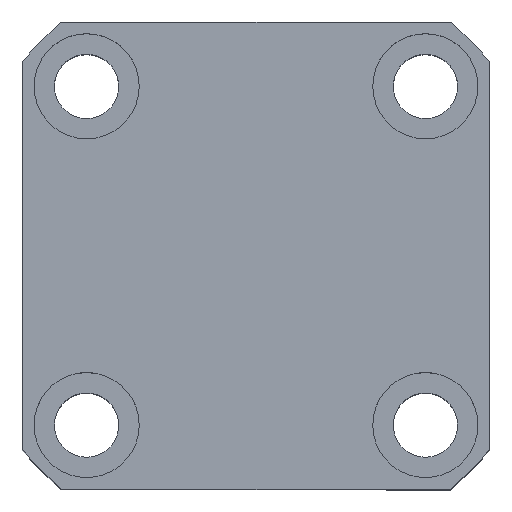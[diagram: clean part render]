
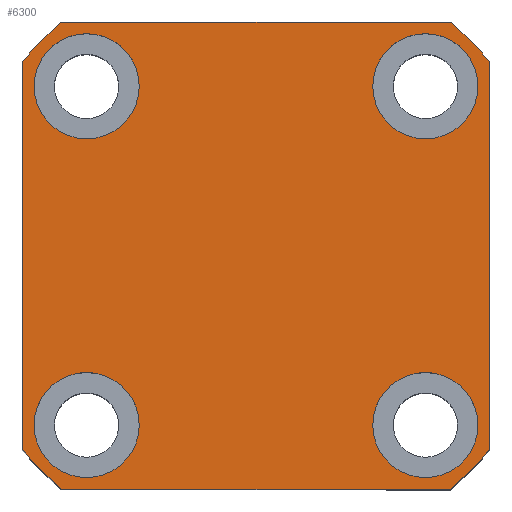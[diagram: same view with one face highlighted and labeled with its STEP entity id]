
A CAD part, top view. The second image highlights one B-rep face of the part: STEP entity #6300.
In plain terms, the highlighted planar face has unit normal (0, 0, 1).
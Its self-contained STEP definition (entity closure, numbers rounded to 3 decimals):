
#130 = DIRECTION ( 'NONE',  ( 0., 0., 1. ) ) ;
#161 = DIRECTION ( 'NONE',  ( 0., 0., 1. ) ) ;
#259 = EDGE_CURVE ( 'NONE', #1165, #12457, #1256, .T. ) ;
#450 = CARTESIAN_POINT ( 'NONE',  ( -29., 29., 35. ) ) ;
#658 = EDGE_CURVE ( 'NONE', #4995, #10958, #4526, .T. ) ;
#784 = DIRECTION ( 'NONE',  ( 0., 0., 1. ) ) ;
#818 = VERTEX_POINT ( 'NONE', #5042 ) ;
#852 = CARTESIAN_POINT ( 'NONE',  ( 20., -29., 35. ) ) ;
#881 = VERTEX_POINT ( 'NONE', #8987 ) ;
#947 = FACE_BOUND ( 'NONE', #13126, .T. ) ;
#1165 = VERTEX_POINT ( 'NONE', #15350 ) ;
#1256 = CIRCLE ( 'NONE', #9097, 9. ) ;
#1278 = CARTESIAN_POINT ( 'NONE',  ( -29., 29., 35. ) ) ;
#1317 = ORIENTED_EDGE ( 'NONE', *, *, #12348, .T. ) ;
#1320 = DIRECTION ( 'NONE',  ( 1., 0., 0. ) ) ;
#1344 = AXIS2_PLACEMENT_3D ( 'NONE', #450, #15970, #17250 ) ;
#1391 = CARTESIAN_POINT ( 'NONE',  ( 0., 0., 35. ) ) ;
#1738 = VERTEX_POINT ( 'NONE', #3813 ) ;
#1836 = AXIS2_PLACEMENT_3D ( 'NONE', #8450, #5613, #12746 ) ;
#2123 = ORIENTED_EDGE ( 'NONE', *, *, #17520, .T. ) ;
#2200 = CARTESIAN_POINT ( 'NONE',  ( 0., 0., 35. ) ) ;
#2237 = EDGE_CURVE ( 'NONE', #2808, #1738, #15576, .T. ) ;
#2399 = CARTESIAN_POINT ( 'NONE',  ( 20., 29., 35. ) ) ;
#2808 = VERTEX_POINT ( 'NONE', #7864 ) ;
#3118 = CIRCLE ( 'NONE', #1344, 9. ) ;
#3644 = DIRECTION ( 'NONE',  ( 1., 0., 0. ) ) ;
#3813 = CARTESIAN_POINT ( 'NONE',  ( -33.226, 40., 35. ) ) ;
#4058 = AXIS2_PLACEMENT_3D ( 'NONE', #13295, #14696, #14800 ) ;
#4105 = CARTESIAN_POINT ( 'NONE',  ( -40., 33.226, 35. ) ) ;
#4173 = EDGE_CURVE ( 'NONE', #13411, #13247, #18042, .T. ) ;
#4271 = ORIENTED_EDGE ( 'NONE', *, *, #5966, .T. ) ;
#4436 = ORIENTED_EDGE ( 'NONE', *, *, #259, .F. ) ;
#4486 = CARTESIAN_POINT ( 'NONE',  ( 40., 33.226, 35. ) ) ;
#4487 = AXIS2_PLACEMENT_3D ( 'NONE', #2200, #784, #9113 ) ;
#4496 = ORIENTED_EDGE ( 'NONE', *, *, #16653, .F. ) ;
#4526 = LINE ( 'NONE', #7207, #10649 ) ;
#4617 = EDGE_CURVE ( 'NONE', #16613, #11895, #7769, .T. ) ;
#4669 = FACE_BOUND ( 'NONE', #15034, .T. ) ;
#4746 = CIRCLE ( 'NONE', #17394, 52. ) ;
#4768 = CIRCLE ( 'NONE', #7523, 9. ) ;
#4884 = VERTEX_POINT ( 'NONE', #6856 ) ;
#4955 = CARTESIAN_POINT ( 'NONE',  ( -38., 29., 35. ) ) ;
#4968 = DIRECTION ( 'NONE',  ( 0., 0., 1. ) ) ;
#4995 = VERTEX_POINT ( 'NONE', #4105 ) ;
#5042 = CARTESIAN_POINT ( 'NONE',  ( -20., 29., 35. ) ) ;
#5104 = CARTESIAN_POINT ( 'NONE',  ( 29., -29., 35. ) ) ;
#5420 = EDGE_CURVE ( 'NONE', #7869, #881, #11265, .T. ) ;
#5523 = ORIENTED_EDGE ( 'NONE', *, *, #8226, .T. ) ;
#5613 = DIRECTION ( 'NONE',  ( 0., 0., 1. ) ) ;
#5623 = CARTESIAN_POINT ( 'NONE',  ( 38., 29., 35. ) ) ;
#5776 = DIRECTION ( 'NONE',  ( 1., 0., 0. ) ) ;
#5917 = CARTESIAN_POINT ( 'NONE',  ( -33.226, 40., 35. ) ) ;
#5966 = EDGE_CURVE ( 'NONE', #1738, #4995, #10582, .T. ) ;
#6147 = CARTESIAN_POINT ( 'NONE',  ( -33.226, -40., 35. ) ) ;
#6300 = ADVANCED_FACE ( 'NONE', ( #4669, #17567, #947, #6627, #9272 ), #12112, .T. ) ;
#6451 = EDGE_CURVE ( 'NONE', #818, #11189, #17786, .T. ) ;
#6496 = DIRECTION ( 'NONE',  ( 1., 0., 0. ) ) ;
#6621 = DIRECTION ( 'NONE',  ( 0., 0., 1. ) ) ;
#6627 = FACE_BOUND ( 'NONE', #12455, .T. ) ;
#6755 = CARTESIAN_POINT ( 'NONE',  ( 0., 0., 35. ) ) ;
#6836 = VECTOR ( 'NONE', #12717, 1000. ) ;
#6856 = CARTESIAN_POINT ( 'NONE',  ( 40., 33.226, 35. ) ) ;
#7207 = CARTESIAN_POINT ( 'NONE',  ( -40., 33.226, 35. ) ) ;
#7334 = ORIENTED_EDGE ( 'NONE', *, *, #4173, .T. ) ;
#7523 = AXIS2_PLACEMENT_3D ( 'NONE', #11449, #130, #9912 ) ;
#7690 = ORIENTED_EDGE ( 'NONE', *, *, #10460, .F. ) ;
#7767 = DIRECTION ( 'NONE',  ( 0., 0., 1. ) ) ;
#7769 = CIRCLE ( 'NONE', #4058, 9. ) ;
#7822 = DIRECTION ( 'NONE',  ( 1., 0., 0. ) ) ;
#7864 = CARTESIAN_POINT ( 'NONE',  ( 33.226, 40., 35. ) ) ;
#7869 = VERTEX_POINT ( 'NONE', #15015 ) ;
#8226 = EDGE_CURVE ( 'NONE', #13247, #4884, #9459, .T. ) ;
#8340 = EDGE_CURVE ( 'NONE', #11189, #818, #3118, .T. ) ;
#8450 = CARTESIAN_POINT ( 'NONE',  ( 0., 0., 35. ) ) ;
#8479 = ORIENTED_EDGE ( 'NONE', *, *, #658, .T. ) ;
#8494 = CIRCLE ( 'NONE', #17745, 52. ) ;
#8645 = DIRECTION ( 'NONE',  ( 1., 0., 0. ) ) ;
#8920 = ORIENTED_EDGE ( 'NONE', *, *, #6451, .F. ) ;
#8968 = AXIS2_PLACEMENT_3D ( 'NONE', #1391, #161, #5776 ) ;
#8987 = CARTESIAN_POINT ( 'NONE',  ( -20., -29., 35. ) ) ;
#9097 = AXIS2_PLACEMENT_3D ( 'NONE', #15988, #4968, #10599 ) ;
#9113 = DIRECTION ( 'NONE',  ( 1., 0., 0. ) ) ;
#9272 = FACE_OUTER_BOUND ( 'NONE', #15028, .T. ) ;
#9388 = CARTESIAN_POINT ( 'NONE',  ( 0., 0., 35. ) ) ;
#9459 = LINE ( 'NONE', #4486, #6836 ) ;
#9465 = DIRECTION ( 'NONE',  ( 1., 0., 0. ) ) ;
#9890 = DIRECTION ( 'NONE',  ( -1., 0., 0. ) ) ;
#9912 = DIRECTION ( 'NONE',  ( 1., 0., 0. ) ) ;
#10420 = ORIENTED_EDGE ( 'NONE', *, *, #2237, .T. ) ;
#10434 = ORIENTED_EDGE ( 'NONE', *, *, #17684, .T. ) ;
#10460 = EDGE_CURVE ( 'NONE', #881, #7869, #17873, .T. ) ;
#10477 = ORIENTED_EDGE ( 'NONE', *, *, #4617, .F. ) ;
#10484 = EDGE_CURVE ( 'NONE', #12457, #1165, #14810, .T. ) ;
#10582 = CIRCLE ( 'NONE', #1836, 52. ) ;
#10599 = DIRECTION ( 'NONE',  ( 1., 0., 0. ) ) ;
#10649 = VECTOR ( 'NONE', #14069, 1000. ) ;
#10914 = VERTEX_POINT ( 'NONE', #6147 ) ;
#10958 = VERTEX_POINT ( 'NONE', #13192 ) ;
#11155 = ORIENTED_EDGE ( 'NONE', *, *, #10484, .F. ) ;
#11189 = VERTEX_POINT ( 'NONE', #4955 ) ;
#11265 = CIRCLE ( 'NONE', #16587, 9. ) ;
#11329 = CARTESIAN_POINT ( 'NONE',  ( -33.226, -40., 35. ) ) ;
#11449 = CARTESIAN_POINT ( 'NONE',  ( 29., 29., 35. ) ) ;
#11867 = VECTOR ( 'NONE', #9890, 1000. ) ;
#11895 = VERTEX_POINT ( 'NONE', #2399 ) ;
#11999 = AXIS2_PLACEMENT_3D ( 'NONE', #1278, #12231, #9465 ) ;
#12112 = PLANE ( 'NONE',  #4487 ) ;
#12231 = DIRECTION ( 'NONE',  ( 0., 0., 1. ) ) ;
#12348 = EDGE_CURVE ( 'NONE', #10914, #13411, #12624, .T. ) ;
#12386 = DIRECTION ( 'NONE',  ( 0., 0., 1. ) ) ;
#12455 = EDGE_LOOP ( 'NONE', ( #10477, #4496 ) ) ;
#12457 = VERTEX_POINT ( 'NONE', #852 ) ;
#12624 = LINE ( 'NONE', #11329, #17404 ) ;
#12704 = DIRECTION ( 'NONE',  ( 0., 0., 1. ) ) ;
#12717 = DIRECTION ( 'NONE',  ( 0., 1., 0. ) ) ;
#12746 = DIRECTION ( 'NONE',  ( 1., 0., 0. ) ) ;
#13126 = EDGE_LOOP ( 'NONE', ( #8920, #13534 ) ) ;
#13192 = CARTESIAN_POINT ( 'NONE',  ( -40., -33.226, 35. ) ) ;
#13247 = VERTEX_POINT ( 'NONE', #15167 ) ;
#13295 = CARTESIAN_POINT ( 'NONE',  ( 29., 29., 35. ) ) ;
#13411 = VERTEX_POINT ( 'NONE', #14482 ) ;
#13534 = ORIENTED_EDGE ( 'NONE', *, *, #8340, .F. ) ;
#14069 = DIRECTION ( 'NONE',  ( 0., -1., 0. ) ) ;
#14150 = CARTESIAN_POINT ( 'NONE',  ( -29., -29., 35. ) ) ;
#14482 = CARTESIAN_POINT ( 'NONE',  ( 33.226, -40., 35. ) ) ;
#14696 = DIRECTION ( 'NONE',  ( 0., 0., 1. ) ) ;
#14800 = DIRECTION ( 'NONE',  ( 1., 0., 0. ) ) ;
#14810 = CIRCLE ( 'NONE', #15554, 9. ) ;
#14842 = CARTESIAN_POINT ( 'NONE',  ( -29., -29., 35. ) ) ;
#15015 = CARTESIAN_POINT ( 'NONE',  ( -38., -29., 35. ) ) ;
#15028 = EDGE_LOOP ( 'NONE', ( #4271, #8479, #10434, #1317, #7334, #5523, #2123, #10420 ) ) ;
#15034 = EDGE_LOOP ( 'NONE', ( #4436, #11155 ) ) ;
#15167 = CARTESIAN_POINT ( 'NONE',  ( 40., -33.226, 35. ) ) ;
#15350 = CARTESIAN_POINT ( 'NONE',  ( 38., -29., 35. ) ) ;
#15554 = AXIS2_PLACEMENT_3D ( 'NONE', #5104, #7767, #3644 ) ;
#15576 = LINE ( 'NONE', #5917, #11867 ) ;
#15715 = ORIENTED_EDGE ( 'NONE', *, *, #5420, .F. ) ;
#15970 = DIRECTION ( 'NONE',  ( 0., 0., 1. ) ) ;
#15988 = CARTESIAN_POINT ( 'NONE',  ( 29., -29., 35. ) ) ;
#16587 = AXIS2_PLACEMENT_3D ( 'NONE', #14150, #12704, #8645 ) ;
#16613 = VERTEX_POINT ( 'NONE', #5623 ) ;
#16653 = EDGE_CURVE ( 'NONE', #11895, #16613, #4768, .T. ) ;
#16734 = AXIS2_PLACEMENT_3D ( 'NONE', #14842, #17640, #7822 ) ;
#17174 = DIRECTION ( 'NONE',  ( 1., 0., 0. ) ) ;
#17250 = DIRECTION ( 'NONE',  ( 1., 0., 0. ) ) ;
#17394 = AXIS2_PLACEMENT_3D ( 'NONE', #9388, #6621, #6496 ) ;
#17404 = VECTOR ( 'NONE', #17174, 1000. ) ;
#17426 = EDGE_LOOP ( 'NONE', ( #7690, #15715 ) ) ;
#17520 = EDGE_CURVE ( 'NONE', #4884, #2808, #4746, .T. ) ;
#17567 = FACE_BOUND ( 'NONE', #17426, .T. ) ;
#17640 = DIRECTION ( 'NONE',  ( 0., 0., 1. ) ) ;
#17684 = EDGE_CURVE ( 'NONE', #10958, #10914, #8494, .T. ) ;
#17745 = AXIS2_PLACEMENT_3D ( 'NONE', #6755, #12386, #1320 ) ;
#17786 = CIRCLE ( 'NONE', #11999, 9. ) ;
#17873 = CIRCLE ( 'NONE', #16734, 9. ) ;
#18042 = CIRCLE ( 'NONE', #8968, 52. ) ;
